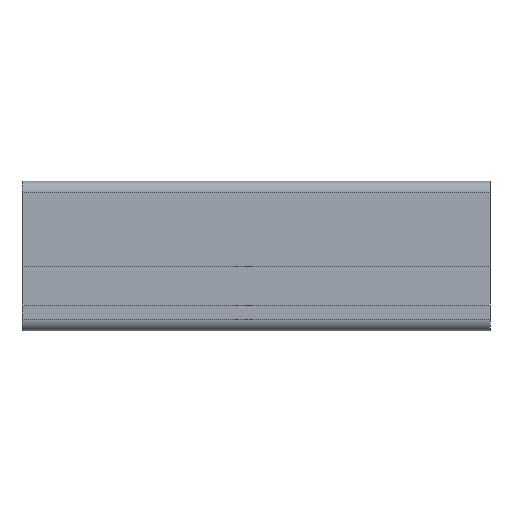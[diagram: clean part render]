
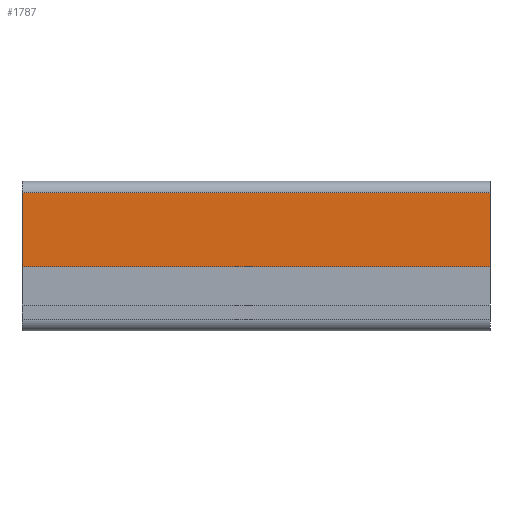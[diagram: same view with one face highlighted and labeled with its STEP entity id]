
A CAD part, front view. The second image highlights one B-rep face of the part: STEP entity #1787.
In plain terms, the highlighted planar face has unit normal (0, -1, 0).
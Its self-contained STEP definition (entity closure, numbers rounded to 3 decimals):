
#15 = CARTESIAN_POINT ( 'NONE',  ( 59.184, 38.898, 11.6 ) ) ;
#145 = DIRECTION ( 'NONE',  ( -1., 0., 0. ) ) ;
#349 = LINE ( 'NONE', #1327, #2490 ) ;
#387 = LINE ( 'NONE', #1621, #1927 ) ;
#400 = VECTOR ( 'NONE', #1842, 1000. ) ;
#492 = EDGE_LOOP ( 'NONE', ( #1145, #1014, #1676, #1887 ) ) ;
#518 = VERTEX_POINT ( 'NONE', #1568 ) ;
#660 = LINE ( 'NONE', #2020, #400 ) ;
#710 = EDGE_CURVE ( 'NONE', #1050, #518, #660, .T. ) ;
#720 = DIRECTION ( 'NONE',  ( 0., 0., -1. ) ) ;
#772 = AXIS2_PLACEMENT_3D ( 'NONE', #1481, #1118, #2074 ) ;
#870 = EDGE_CURVE ( 'NONE', #1402, #2480, #349, .T. ) ;
#1014 = ORIENTED_EDGE ( 'NONE', *, *, #710, .F. ) ;
#1038 = LINE ( 'NONE', #1094, #1489 ) ;
#1050 = VERTEX_POINT ( 'NONE', #1596 ) ;
#1094 = CARTESIAN_POINT ( 'NONE',  ( -40.816, 38.898, 11.6 ) ) ;
#1097 = PLANE ( 'NONE',  #772 ) ;
#1118 = DIRECTION ( 'NONE',  ( 0., 1., 0. ) ) ;
#1145 = ORIENTED_EDGE ( 'NONE', *, *, #1178, .T. ) ;
#1178 = EDGE_CURVE ( 'NONE', #2480, #518, #1038, .T. ) ;
#1327 = CARTESIAN_POINT ( 'NONE',  ( 59.184, 38.898, 11.6 ) ) ;
#1402 = VERTEX_POINT ( 'NONE', #15 ) ;
#1481 = CARTESIAN_POINT ( 'NONE',  ( 59.184, 38.898, 11.6 ) ) ;
#1489 = VECTOR ( 'NONE', #720, 1000. ) ;
#1568 = CARTESIAN_POINT ( 'NONE',  ( -40.816, 38.898, -4.25 ) ) ;
#1596 = CARTESIAN_POINT ( 'NONE',  ( 59.184, 38.898, -4.25 ) ) ;
#1621 = CARTESIAN_POINT ( 'NONE',  ( 59.184, 38.898, 11.6 ) ) ;
#1676 = ORIENTED_EDGE ( 'NONE', *, *, #2239, .F. ) ;
#1787 = ADVANCED_FACE ( 'NONE', ( #2071 ), #1097, .F. ) ;
#1831 = DIRECTION ( 'NONE',  ( 0., 0., -1. ) ) ;
#1842 = DIRECTION ( 'NONE',  ( -1., 0., 0. ) ) ;
#1887 = ORIENTED_EDGE ( 'NONE', *, *, #870, .T. ) ;
#1916 = CARTESIAN_POINT ( 'NONE',  ( -40.816, 38.898, 11.6 ) ) ;
#1927 = VECTOR ( 'NONE', #1831, 1000. ) ;
#2020 = CARTESIAN_POINT ( 'NONE',  ( 59.184, 38.898, -4.25 ) ) ;
#2071 = FACE_OUTER_BOUND ( 'NONE', #492, .T. ) ;
#2074 = DIRECTION ( 'NONE',  ( 0., 0., 1. ) ) ;
#2239 = EDGE_CURVE ( 'NONE', #1402, #1050, #387, .T. ) ;
#2480 = VERTEX_POINT ( 'NONE', #1916 ) ;
#2490 = VECTOR ( 'NONE', #145, 1000. ) ;
